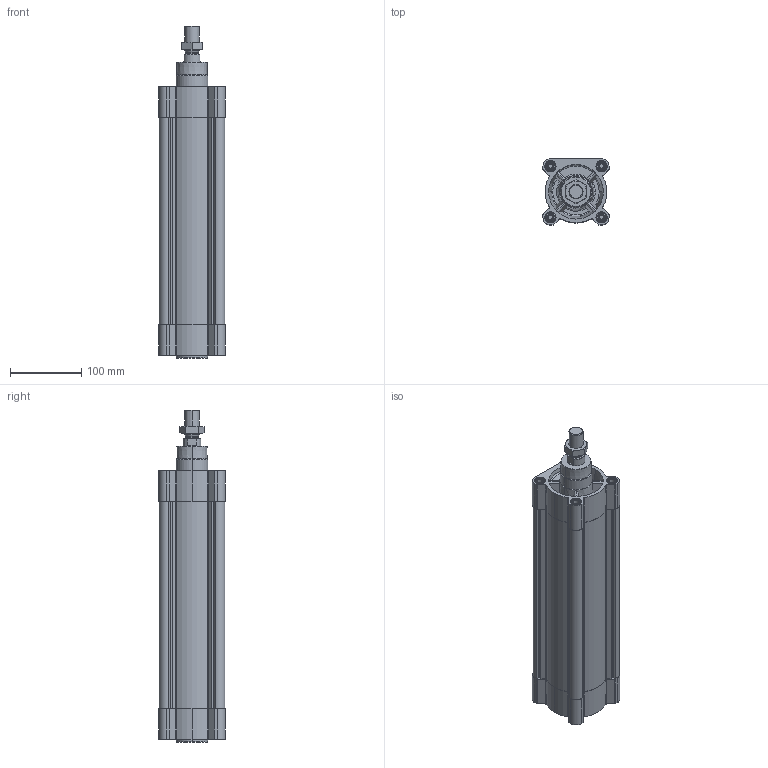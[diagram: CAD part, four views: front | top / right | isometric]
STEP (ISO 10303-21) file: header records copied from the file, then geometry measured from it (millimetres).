
FILE_DESCRIPTION (( 'STEP AP214' ), '1' );
FILE_NAME ('CPME80-250.STEP', '2025-05-19T11:03:02', ( '' ), ( '' ), 'SwSTEP 2.0', 'SolidWorks 2019', '' );
FILE_SCHEMA (( 'AUTOMOTIVE_DESIGN' ));
Length unit declared in the file: millimetre
Products named in the file (1): CPME80-250
Bounding box: 93 x 93 x 467.6 mm (x, y, z)
Volume: 1579669.6 mm3; surface area: 366203 mm2
Topology: 3 solids, 3 shells, 533 faces, 1359 edges, 870 vertices
Faces by surface type: plane 207, cylinder 200, cone 98, torus 28
Entity records: 24525 total; most frequent: CARTESIAN_POINT 5639, DIRECTION 2751, ORIENTED_EDGE 2718, EDGE_CURVE 1359, AXIS2_PLACEMENT_3D 1049, VERTEX_POINT 870, VECTOR 653, LINE 653
